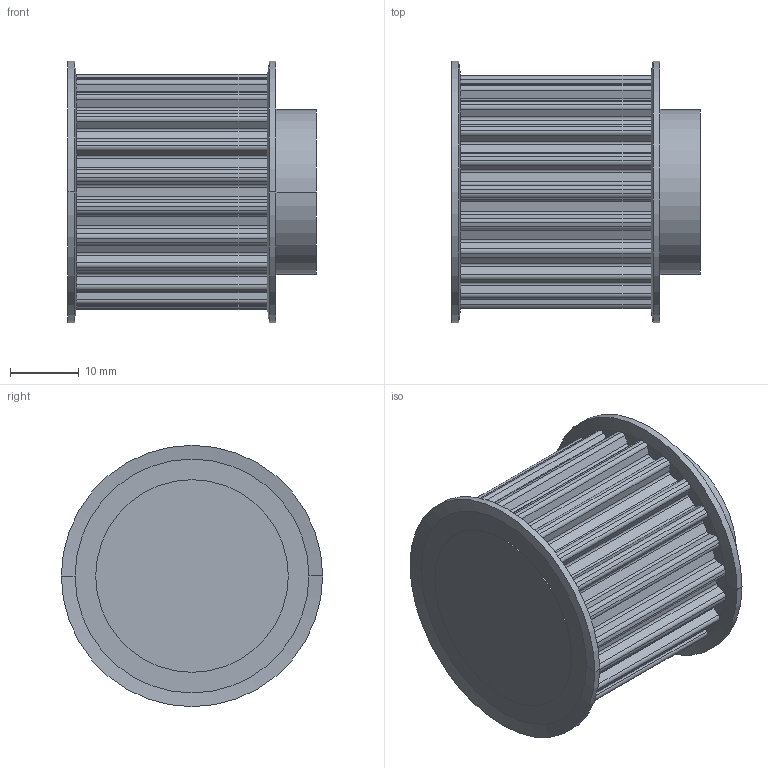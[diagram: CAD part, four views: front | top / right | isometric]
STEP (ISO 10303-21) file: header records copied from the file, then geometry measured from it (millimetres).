
FILE_DESCRIPTION( ( '' ), '1' );
FILE_NAME( 'C:/Users/Stangenbergd/Documents/CAD_Step/1/16242200.stp', '2021-10-19T08:45:47', ( '' ), ( '' ), ' ', ' ', ' ' );
FILE_SCHEMA( ( 'CONFIG_CONTROL_DESIGN' ) );
Length unit declared in the file: millimetre
Products named in the file (1): 1
Bounding box: 36.13 x 38 x 38 mm (x, y, z)
Volume: 27417 mm3; surface area: 7966.8 mm2
Topology: 1 solids, 1 shells, 287 faces, 750 edges, 468 vertices
Faces by surface type: plane 159, cylinder 120, cone 8
Entity records: 8964 total; most frequent: DIRECTION 1750, CARTESIAN_POINT 1506, ORIENTED_EDGE 1500, EDGE_CURVE 750, AXIS2_PLACEMENT_3D 712, VERTEX_POINT 468, CIRCLE 424, LINE 326
